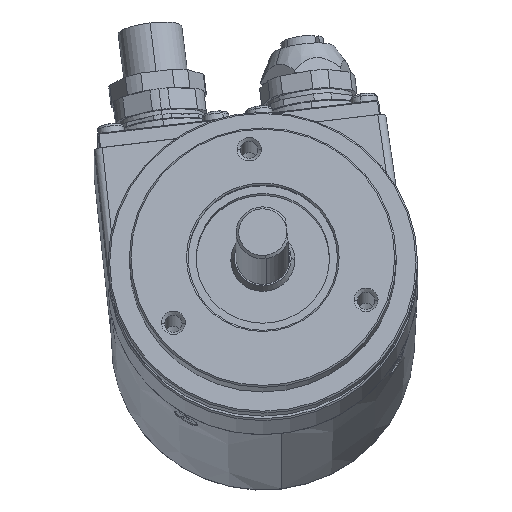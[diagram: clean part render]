
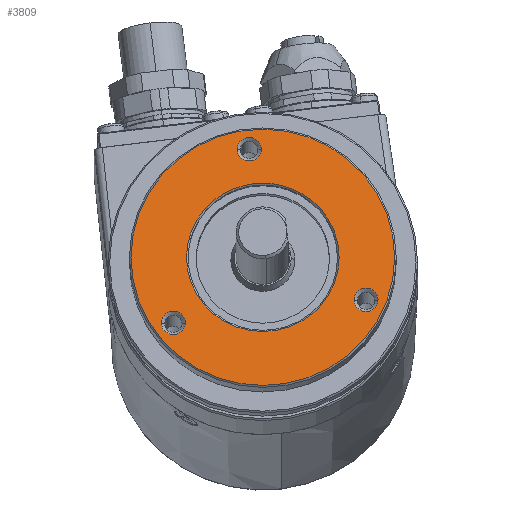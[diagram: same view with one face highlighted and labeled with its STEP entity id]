
A CAD part, front view. The second image highlights one B-rep face of the part: STEP entity #3809.
In plain terms, the highlighted planar face has unit normal (0, -0.972, 0.235).
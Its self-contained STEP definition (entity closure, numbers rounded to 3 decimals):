
#1078 = EDGE_CURVE ( 'NONE', #20984, #20999, #14339, .T. ) ;
#1111 = EDGE_CURVE ( 'NONE', #20828, #20864, #14380, .T. ) ;
#1181 = EDGE_CURVE ( 'NONE', #21193, #20761, #14579, .T. ) ;
#1191 = EDGE_CURVE ( 'NONE', #21386, #20600, #14620, .T. ) ;
#1852 = CIRCLE ( 'NONE', #29067, 24.7 ) ;
#1861 = CIRCLE ( 'NONE', #29072, 2.25 ) ;
#1864 = CIRCLE ( 'NONE', #29069, 2.25 ) ;
#1866 = CIRCLE ( 'NONE', #29070, 14.3 ) ;
#1869 = CIRCLE ( 'NONE', #29073, 2.25 ) ;
#2563 = CARTESIAN_POINT ( 'NONE',  ( 4.229, -31.159, -5.46 ) ) ;
#2564 = DIRECTION ( 'NONE',  ( 0., -0.972, 0.235 ) ) ;
#2565 = DIRECTION ( 'NONE',  ( -1., 0., 0. ) ) ;
#2586 = CARTESIAN_POINT ( 'NONE',  ( 40.331, -30.116, -1.152 ) ) ;
#2587 = DIRECTION ( 'NONE',  ( 0., -0.972, 0.235 ) ) ;
#2588 = DIRECTION ( 'NONE',  ( -1., 0., 0. ) ) ;
#3809 = ADVANCED_FACE ( 'NONE', ( #9068, #9074, #9066, #9075, #9073 ), #7619, .F. ) ;
#5199 = EDGE_CURVE ( 'NONE', #21414, #21405, #9581, .T. ) ;
#7618 = DIRECTION ( 'NONE',  ( 0., 0.972, -0.235 ) ) ;
#7619 = PLANE ( 'NONE',  #21650 ) ;
#7621 = CARTESIAN_POINT ( 'NONE',  ( 21., -34.068, -17.475 ) ) ;
#7622 = DIRECTION ( 'NONE',  ( 1., 0., 0. ) ) ;
#9066 = FACE_BOUND ( 'NONE', #16342, .T. ) ;
#9068 = FACE_BOUND ( 'NONE', #16229, .T. ) ;
#9073 = FACE_OUTER_BOUND ( 'NONE', #16278, .T. ) ;
#9074 = FACE_BOUND ( 'NONE', #16256, .T. ) ;
#9075 = FACE_BOUND ( 'NONE', #16272, .T. ) ;
#9581 = CIRCLE ( 'NONE', #21164, 2.25 ) ;
#14339 = CIRCLE ( 'NONE', #28379, 24.7 ) ;
#14380 = CIRCLE ( 'NONE', #28338, 14.3 ) ;
#14579 = CIRCLE ( 'NONE', #28218, 2.25 ) ;
#14620 = CIRCLE ( 'NONE', #28210, 2.25 ) ;
#14707 = CARTESIAN_POINT ( 'NONE',  ( 38.081, -30.116, -1.152 ) ) ;
#15006 = CARTESIAN_POINT ( 'NONE',  ( 1.979, -31.159, -5.46 ) ) ;
#15130 = CARTESIAN_POINT ( 'NONE',  ( 6.7, -28.186, 6.823 ) ) ;
#15197 = CARTESIAN_POINT ( 'NONE',  ( 35.3, -28.186, 6.823 ) ) ;
#15359 = CARTESIAN_POINT ( 'NONE',  ( -3.7, -28.186, 6.823 ) ) ;
#15374 = CARTESIAN_POINT ( 'NONE',  ( 45.7, -28.186, 6.823 ) ) ;
#15664 = CARTESIAN_POINT ( 'NONE',  ( 6.479, -31.159, -5.46 ) ) ;
#15815 = CARTESIAN_POINT ( 'NONE',  ( 42.581, -30.116, -1.152 ) ) ;
#15826 = CARTESIAN_POINT ( 'NONE',  ( 16.191, -23.282, 27.082 ) ) ;
#15833 = CARTESIAN_POINT ( 'NONE',  ( 20.691, -23.282, 27.082 ) ) ;
#16229 = EDGE_LOOP ( 'NONE', ( #17898, #17896 ) ) ;
#16256 = EDGE_LOOP ( 'NONE', ( #17894, #17892 ) ) ;
#16272 = EDGE_LOOP ( 'NONE', ( #17886, #17885 ) ) ;
#16278 = EDGE_LOOP ( 'NONE', ( #17884, #17883 ) ) ;
#16342 = EDGE_LOOP ( 'NONE', ( #17890, #17888 ) ) ;
#17883 = ORIENTED_EDGE ( 'NONE', *, *, #1078, .T. ) ;
#17884 = ORIENTED_EDGE ( 'NONE', *, *, #38647, .T. ) ;
#17885 = ORIENTED_EDGE ( 'NONE', *, *, #38651, .T. ) ;
#17886 = ORIENTED_EDGE ( 'NONE', *, *, #1111, .T. ) ;
#17888 = ORIENTED_EDGE ( 'NONE', *, *, #5199, .F. ) ;
#17890 = ORIENTED_EDGE ( 'NONE', *, *, #38650, .F. ) ;
#17892 = ORIENTED_EDGE ( 'NONE', *, *, #1181, .F. ) ;
#17894 = ORIENTED_EDGE ( 'NONE', *, *, #38654, .F. ) ;
#17896 = ORIENTED_EDGE ( 'NONE', *, *, #1191, .F. ) ;
#17898 = ORIENTED_EDGE ( 'NONE', *, *, #38653, .F. ) ;
#20600 = VERTEX_POINT ( 'NONE', #14707 ) ;
#20761 = VERTEX_POINT ( 'NONE', #15006 ) ;
#20828 = VERTEX_POINT ( 'NONE', #15130 ) ;
#20864 = VERTEX_POINT ( 'NONE', #15197 ) ;
#20984 = VERTEX_POINT ( 'NONE', #15359 ) ;
#20999 = VERTEX_POINT ( 'NONE', #15374 ) ;
#21164 = AXIS2_PLACEMENT_3D ( 'NONE', #26355, #26356, #26358 ) ;
#21193 = VERTEX_POINT ( 'NONE', #15664 ) ;
#21386 = VERTEX_POINT ( 'NONE', #15815 ) ;
#21405 = VERTEX_POINT ( 'NONE', #15826 ) ;
#21414 = VERTEX_POINT ( 'NONE', #15833 ) ;
#21650 = AXIS2_PLACEMENT_3D ( 'NONE', #7621, #7618, #7622 ) ;
#26355 = CARTESIAN_POINT ( 'NONE',  ( 18.441, -23.282, 27.082 ) ) ;
#26356 = DIRECTION ( 'NONE',  ( 0., -0.972, 0.235 ) ) ;
#26358 = DIRECTION ( 'NONE',  ( -1., 0., 0. ) ) ;
#28210 = AXIS2_PLACEMENT_3D ( 'NONE', #2586, #2587, #2588 ) ;
#28218 = AXIS2_PLACEMENT_3D ( 'NONE', #2563, #2564, #2565 ) ;
#28338 = AXIS2_PLACEMENT_3D ( 'NONE', #37677, #37678, #37679 ) ;
#28379 = AXIS2_PLACEMENT_3D ( 'NONE', #28536, #28539, #28541 ) ;
#28536 = CARTESIAN_POINT ( 'NONE',  ( 21., -28.186, 6.823 ) ) ;
#28539 = DIRECTION ( 'NONE',  ( 0., -0.972, 0.235 ) ) ;
#28541 = DIRECTION ( 'NONE',  ( 1., 0., 0. ) ) ;
#29067 = AXIS2_PLACEMENT_3D ( 'NONE', #36046, #36047, #36048 ) ;
#29069 = AXIS2_PLACEMENT_3D ( 'NONE', #36052, #36054, #36055 ) ;
#29070 = AXIS2_PLACEMENT_3D ( 'NONE', #36057, #36058, #36060 ) ;
#29072 = AXIS2_PLACEMENT_3D ( 'NONE', #36066, #36067, #36068 ) ;
#29073 = AXIS2_PLACEMENT_3D ( 'NONE', #36071, #36073, #36074 ) ;
#36046 = CARTESIAN_POINT ( 'NONE',  ( 21., -28.186, 6.823 ) ) ;
#36047 = DIRECTION ( 'NONE',  ( 0., -0.972, 0.235 ) ) ;
#36048 = DIRECTION ( 'NONE',  ( 1., 0., 0. ) ) ;
#36052 = CARTESIAN_POINT ( 'NONE',  ( 18.441, -23.282, 27.082 ) ) ;
#36054 = DIRECTION ( 'NONE',  ( 0., -0.972, 0.235 ) ) ;
#36055 = DIRECTION ( 'NONE',  ( -1., 0., 0. ) ) ;
#36057 = CARTESIAN_POINT ( 'NONE',  ( 21., -28.186, 6.823 ) ) ;
#36058 = DIRECTION ( 'NONE',  ( 0., 0.972, -0.235 ) ) ;
#36060 = DIRECTION ( 'NONE',  ( 1., 0., 0. ) ) ;
#36066 = CARTESIAN_POINT ( 'NONE',  ( 40.331, -30.116, -1.152 ) ) ;
#36067 = DIRECTION ( 'NONE',  ( 0., -0.972, 0.235 ) ) ;
#36068 = DIRECTION ( 'NONE',  ( -1., 0., 0. ) ) ;
#36071 = CARTESIAN_POINT ( 'NONE',  ( 4.229, -31.159, -5.46 ) ) ;
#36073 = DIRECTION ( 'NONE',  ( 0., -0.972, 0.235 ) ) ;
#36074 = DIRECTION ( 'NONE',  ( -1., 0., 0. ) ) ;
#37677 = CARTESIAN_POINT ( 'NONE',  ( 21., -28.186, 6.823 ) ) ;
#37678 = DIRECTION ( 'NONE',  ( 0., 0.972, -0.235 ) ) ;
#37679 = DIRECTION ( 'NONE',  ( 1., 0., 0. ) ) ;
#38647 = EDGE_CURVE ( 'NONE', #20999, #20984, #1852, .T. ) ;
#38650 = EDGE_CURVE ( 'NONE', #21405, #21414, #1864, .T. ) ;
#38651 = EDGE_CURVE ( 'NONE', #20864, #20828, #1866, .T. ) ;
#38653 = EDGE_CURVE ( 'NONE', #20600, #21386, #1861, .T. ) ;
#38654 = EDGE_CURVE ( 'NONE', #20761, #21193, #1869, .T. ) ;
